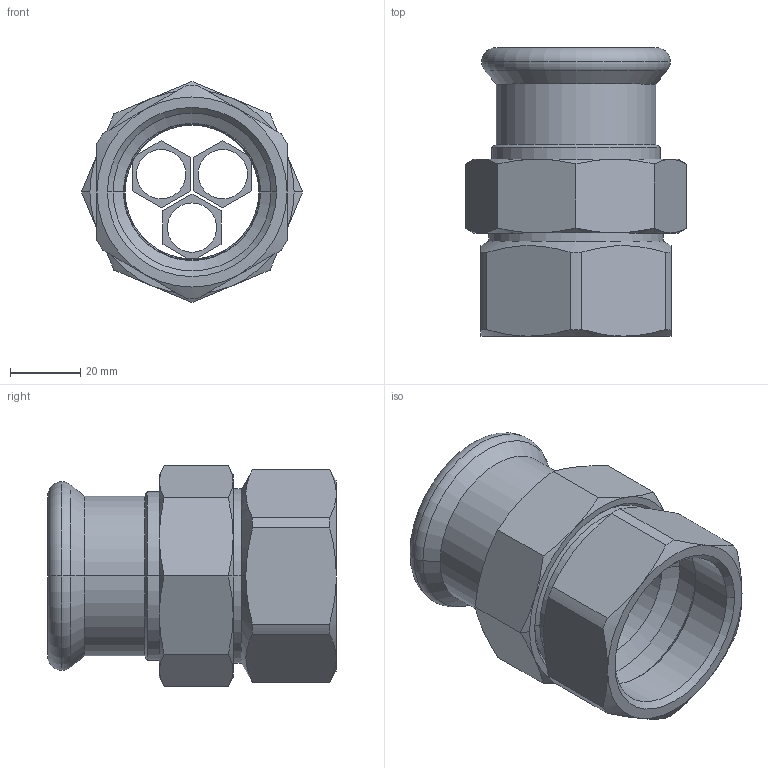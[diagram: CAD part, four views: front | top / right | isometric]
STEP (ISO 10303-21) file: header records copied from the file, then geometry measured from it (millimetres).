
FILE_DESCRIPTION(('OneSpaceDesigner STEP Export'),'2;1');
FILE_NAME('R2738 42xRp1 1-2.stp','2010-06-10T14:44:34',(''),(''),'OneSpace Designer STEP processor for AP214 (Solid Model)','OneSpace Modeling 15.00A 14-Mar-2007 (C) CoCreate Software GmbH','');
FILE_SCHEMA(('AUTOMOTIVE_DESIGN { 1 0 10303 214 1 1 1 1 }'));
Length unit declared in the file: millimetre
Products named in the file (2): R2738_42xRp1_1-2
Assembly tree (1 placements, depth 2):
  R2738_42xRp1_1-2
    R2738_42xRp1_1-2
Bounding box: 62.78 x 82 x 62.78 mm (x, y, z)
Volume: 68242.1 mm3; surface area: 34600.3 mm2
Topology: 1 solids, 1 shells, 156 faces, 370 edges, 221 vertices
Faces by surface type: cone 59, plane 48, cylinder 41, torus 8
Entity records: 5986 total; most frequent: CARTESIAN_POINT 2947, ORIENTED_EDGE 740, DIRECTION 447, EDGE_CURVE 370, VERTEX_POINT 221, EDGE_LOOP 169, VECTOR 161, LINE 161
